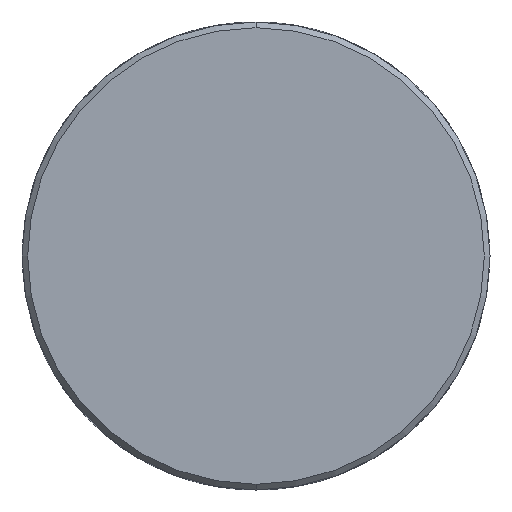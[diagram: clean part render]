
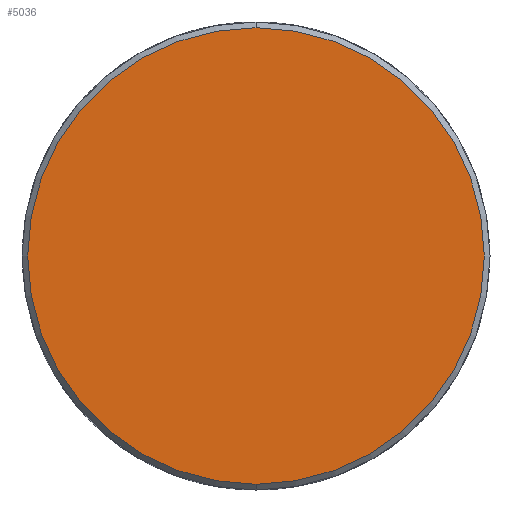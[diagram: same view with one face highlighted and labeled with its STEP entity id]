
A CAD part, front view. The second image highlights one B-rep face of the part: STEP entity #5036.
In plain terms, the highlighted planar face has unit normal (0, -1, 0).
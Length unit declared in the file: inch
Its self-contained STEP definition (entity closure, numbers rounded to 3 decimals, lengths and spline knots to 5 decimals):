
#1599 = DIRECTION ( 'NONE',  ( 0., 0., 1. ) ) ;
#1600 = DIRECTION ( 'NONE',  ( 0., 1., 0. ) ) ;
#1601 = AXIS2_PLACEMENT_3D ( 'NONE', #1602, #1600, #1599 ) ;
#1602 = CARTESIAN_POINT ( 'NONE',  ( 0., 0., 0. ) ) ;
#1603 = PLANE ( 'NONE',  #1601 ) ;
#1604 = FACE_OUTER_BOUND ( 'NONE', #5029, .T. ) ;
#1605 = DIRECTION ( 'NONE',  ( 0., 0., 1. ) ) ;
#1606 = DIRECTION ( 'NONE',  ( 0., -1., 0. ) ) ;
#1607 = CARTESIAN_POINT ( 'NONE',  ( 0., 0., 0. ) ) ;
#1608 = AXIS2_PLACEMENT_3D ( 'NONE', #1607, #1606, #1605 ) ;
#1613 = CIRCLE ( 'NONE', #1608, 2.39 ) ;
#2498 = CARTESIAN_POINT ( 'NONE',  ( 0., 0., -2.39 ) ) ;
#2544 = DIRECTION ( 'NONE',  ( 0., 0., 1. ) ) ;
#2545 = DIRECTION ( 'NONE',  ( 0., -1., 0. ) ) ;
#2546 = CARTESIAN_POINT ( 'NONE',  ( 0., 0., 0. ) ) ;
#2547 = AXIS2_PLACEMENT_3D ( 'NONE', #2546, #2545, #2544 ) ;
#2548 = CIRCLE ( 'NONE', #2547, 2.39 ) ;
#2549 = CARTESIAN_POINT ( 'NONE',  ( 0., 0., 2.39 ) ) ;
#5029 = EDGE_LOOP ( 'NONE', ( #5032, #5031 ) ) ;
#5031 = ORIENTED_EDGE ( 'NONE', *, *, #5548, .T. ) ;
#5032 = ORIENTED_EDGE ( 'NONE', *, *, #5034, .T. ) ;
#5034 = EDGE_CURVE ( 'NONE', #5545, #5540, #1613, .T. ) ;
#5036 = ADVANCED_FACE ( 'NONE', ( #1604 ), #1603, .F. ) ;
#5540 = VERTEX_POINT ( 'NONE', #2498 ) ;
#5545 = VERTEX_POINT ( 'NONE', #2549 ) ;
#5548 = EDGE_CURVE ( 'NONE', #5540, #5545, #2548, .T. ) ;
